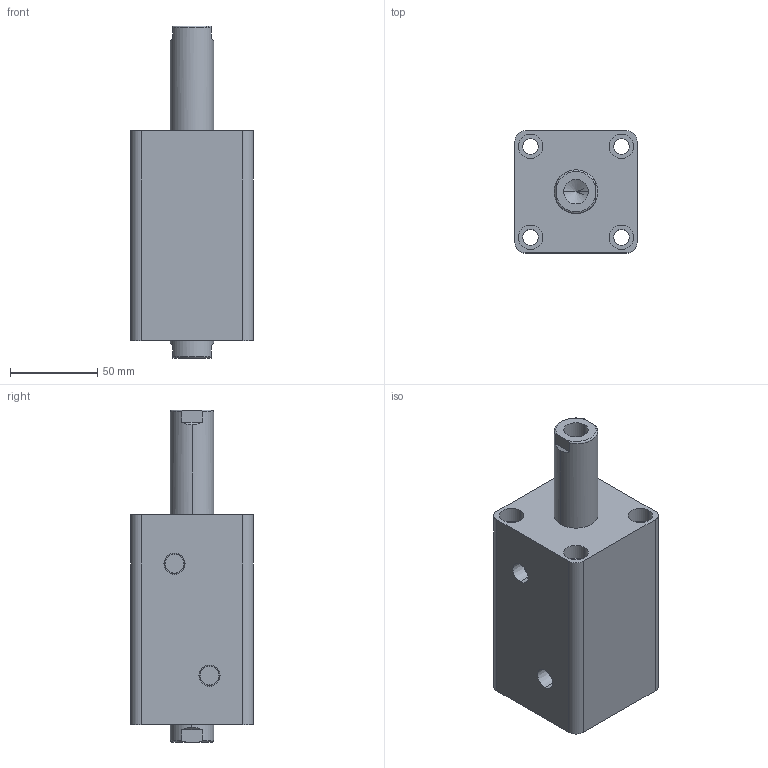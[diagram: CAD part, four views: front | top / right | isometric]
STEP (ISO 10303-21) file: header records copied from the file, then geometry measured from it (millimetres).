
FILE_DESCRIPTION (( 'STEP AP203' ), '1' );
FILE_NAME ('HTB-SW40-50N.STEP', '2019-10-07T09:08:39', ( '微软用户' ), ( '微软中国' ), 'SwSTEP 2.0', 'SolidWorks 2012', '' );
FILE_SCHEMA (( 'CONFIG_CONTROL_DESIGN' ));
Length unit declared in the file: millimetre
Products named in the file (3): HTB-SW40-50N; HTB-SW40-50N活塞杆; HTB-SW40-50掛极
Assembly tree (2 placements, depth 2):
  HTB-SW40-50N
    HTB-SW40-50掛极
    HTB-SW40-50N活塞杆
Bounding box: 70 x 70 x 190 mm (x, y, z)
Volume: 534941 mm3; surface area: 89767.2 mm2
Topology: 2 solids, 2 shells, 100 faces, 228 edges, 146 vertices
Faces by surface type: cylinder 48, plane 32, torus 12, cone 8
Entity records: 3237 total; most frequent: CARTESIAN_POINT 595, DIRECTION 542, ORIENTED_EDGE 448, AXIS2_PLACEMENT_3D 229, EDGE_CURVE 224, VERTEX_POINT 146, EDGE_LOOP 128, CIRCLE 124
